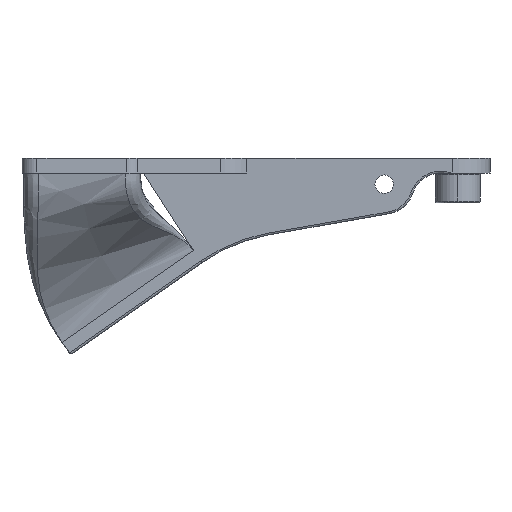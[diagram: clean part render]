
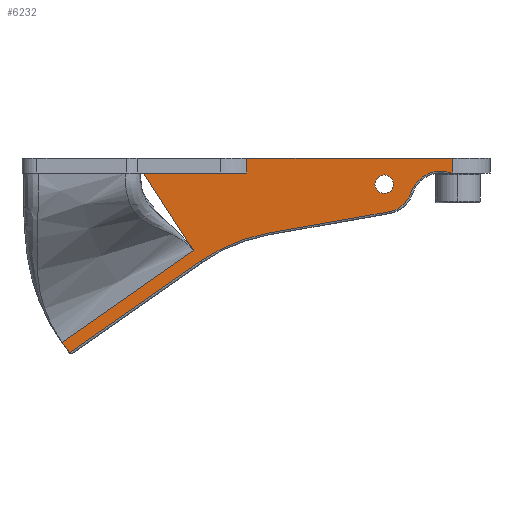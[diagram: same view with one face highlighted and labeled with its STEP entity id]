
A CAD part, left-side view. The second image highlights one B-rep face of the part: STEP entity #6232.
In plain terms, the highlighted planar face has unit normal (-1, 0, 0).
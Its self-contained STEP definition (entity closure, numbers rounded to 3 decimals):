
#105 = ORIENTED_EDGE ( 'NONE', *, *, #9583, .T. ) ;
#109 = CARTESIAN_POINT ( 'NONE',  ( 258.958, 326.154, -19.73 ) ) ;
#149 = CARTESIAN_POINT ( 'NONE',  ( 258.958, 333.186, -24.654 ) ) ;
#184 = CIRCLE ( 'NONE', #7260, 1.25 ) ;
#321 = CARTESIAN_POINT ( 'NONE',  ( 258.958, 290.073, -3.5 ) ) ;
#328 = EDGE_CURVE ( 'NONE', #4052, #5726, #3915, .T. ) ;
#398 = DIRECTION ( 'NONE',  ( 0., -1., 0. ) ) ;
#400 = CARTESIAN_POINT ( 'NONE',  ( 258.958, 336.573, -2. ) ) ;
#491 = VERTEX_POINT ( 'NONE', #856 ) ;
#511 = FACE_OUTER_BOUND ( 'NONE', #6579, .T. ) ;
#514 = DIRECTION ( 'NONE',  ( 0., -1., 0. ) ) ;
#571 = ORIENTED_EDGE ( 'NONE', *, *, #4346, .T. ) ;
#582 = ORIENTED_EDGE ( 'NONE', *, *, #9135, .T. ) ;
#613 = CARTESIAN_POINT ( 'NONE',  ( 258.958, 280.908, -2. ) ) ;
#707 = LINE ( 'NONE', #613, #6381 ) ;
#722 = CARTESIAN_POINT ( 'NONE',  ( 258.958, 320.885, -16.041 ) ) ;
#818 = DIRECTION ( 'NONE',  ( 0., -0.819, 0.574 ) ) ;
#853 = DIRECTION ( 'NONE',  ( 0., -1., 0. ) ) ;
#856 = CARTESIAN_POINT ( 'NONE',  ( 258.958, 333.186, -24.654 ) ) ;
#859 = EDGE_CURVE ( 'NONE', #8377, #8710, #7159, .T. ) ;
#863 = EDGE_CURVE ( 'NONE', #2272, #1952, #8102, .T. ) ;
#1222 = ORIENTED_EDGE ( 'NONE', *, *, #6527, .F. ) ;
#1315 = DIRECTION ( 'NONE',  ( 1., 0., 0. ) ) ;
#1334 = AXIS2_PLACEMENT_3D ( 'NONE', #5661, #5767, #514 ) ;
#1369 = CARTESIAN_POINT ( 'NONE',  ( 258.958, 280.908, -2. ) ) ;
#1521 = DIRECTION ( 'NONE',  ( 0., 0., 1. ) ) ;
#1524 = VERTEX_POINT ( 'NONE', #5095 ) ;
#1565 = CIRCLE ( 'NONE', #6941, 3.75 ) ;
#1726 = LINE ( 'NONE', #7452, #5178 ) ;
#1771 = CARTESIAN_POINT ( 'NONE',  ( 258.958, 280.908, -2. ) ) ;
#1885 = CARTESIAN_POINT ( 'NONE',  ( 258.958, 281.038, -2. ) ) ;
#1952 = VERTEX_POINT ( 'NONE', #6742 ) ;
#2071 = CARTESIAN_POINT ( 'NONE',  ( 258.958, 291.323, -3.5 ) ) ;
#2226 = ORIENTED_EDGE ( 'NONE', *, *, #863, .T. ) ;
#2272 = VERTEX_POINT ( 'NONE', #8564 ) ;
#2276 = CARTESIAN_POINT ( 'NONE',  ( 258.958, 322.641, -17.271 ) ) ;
#2300 = ORIENTED_EDGE ( 'NONE', *, *, #6627, .T. ) ;
#2315 = CARTESIAN_POINT ( 'NONE',  ( 258.958, 315.616, -12.351 ) ) ;
#2493 = B_SPLINE_CURVE_WITH_KNOTS ( 'NONE', 3,
 ( #149, #6716, #5985, #109, #8893, #2276, #722, #8232, #4449, #2315 ),
 .UNSPECIFIED., .F., .F.,
 ( 4, 3, 3, 4 ),
 ( 0., 0.009, 0.015, 0.021 ),
 .UNSPECIFIED. ) ;
#2547 = VECTOR ( 'NONE', #8590, 1000. ) ;
#2559 = DIRECTION ( 'NONE',  ( -1., 0., 0. ) ) ;
#2565 = CARTESIAN_POINT ( 'NONE',  ( 258.958, 280.277, -5.581 ) ) ;
#2789 = ORIENTED_EDGE ( 'NONE', *, *, #7033, .F. ) ;
#2810 = VECTOR ( 'NONE', #853, 1000. ) ;
#2949 = CARTESIAN_POINT ( 'NONE',  ( 258.958, 315.616, -12.351 ) ) ;
#2995 = LINE ( 'NONE', #400, #2547 ) ;
#3275 = DIRECTION ( 'NONE',  ( 0., -1., 0. ) ) ;
#3505 = CARTESIAN_POINT ( 'NONE',  ( 258.958, 286.511, -4.672 ) ) ;
#3525 = EDGE_CURVE ( 'NONE', #7998, #5709, #4814, .T. ) ;
#3600 = EDGE_CURVE ( 'NONE', #1952, #4052, #1565, .T. ) ;
#3606 = ORIENTED_EDGE ( 'NONE', *, *, #3965, .T. ) ;
#3724 = FACE_BOUND ( 'NONE', #8024, .T. ) ;
#3781 = VERTEX_POINT ( 'NONE', #5573 ) ;
#3833 = LINE ( 'NONE', #2949, #9328 ) ;
#3899 = EDGE_CURVE ( 'NONE', #8710, #3781, #4447, .T. ) ;
#3915 = CIRCLE ( 'NONE', #5588, 4.25 ) ;
#3965 = EDGE_CURVE ( 'NONE', #5709, #7998, #184, .T. ) ;
#4052 = VERTEX_POINT ( 'NONE', #3505 ) ;
#4093 = DIRECTION ( 'NONE',  ( 0., -1., 0. ) ) ;
#4116 = DIRECTION ( 'NONE',  ( 0., 0., 1. ) ) ;
#4143 = AXIS2_PLACEMENT_3D ( 'NONE', #7015, #4802, #5393 ) ;
#4174 = ORIENTED_EDGE ( 'NONE', *, *, #6799, .F. ) ;
#4346 = EDGE_CURVE ( 'NONE', #8009, #3781, #7586, .T. ) ;
#4447 = LINE ( 'NONE', #9385, #7021 ) ;
#4449 = CARTESIAN_POINT ( 'NONE',  ( 258.958, 317.372, -13.581 ) ) ;
#4501 = B_SPLINE_CURVE_WITH_KNOTS ( 'NONE', 3,
 ( #8398, #6778, #9119, #8296 ),
 .UNSPECIFIED., .F., .F.,
 ( 4, 4 ),
 ( 0.004, 0.006 ),
 .UNSPECIFIED. ) ;
#4613 = PLANE ( 'NONE',  #8735 ) ;
#4620 = VERTEX_POINT ( 'NONE', #5489 ) ;
#4802 = DIRECTION ( 'NONE',  ( 1., 0., 0. ) ) ;
#4814 = CIRCLE ( 'NONE', #4143, 1.25 ) ;
#4939 = ORIENTED_EDGE ( 'NONE', *, *, #9512, .T. ) ;
#5095 = CARTESIAN_POINT ( 'NONE',  ( 258.958, 308.474, -2. ) ) ;
#5178 = VECTOR ( 'NONE', #818, 1000. ) ;
#5281 = VECTOR ( 'NONE', #9259, 1000. ) ;
#5341 = CARTESIAN_POINT ( 'NONE',  ( 258.958, 308.473, 0. ) ) ;
#5393 = DIRECTION ( 'NONE',  ( 0., 1., 0. ) ) ;
#5489 = CARTESIAN_POINT ( 'NONE',  ( 258.958, 315.616, -12.351 ) ) ;
#5534 = VECTOR ( 'NONE', #4116, 1000. ) ;
#5573 = CARTESIAN_POINT ( 'NONE',  ( 258.958, 280.908, 0. ) ) ;
#5588 = AXIS2_PLACEMENT_3D ( 'NONE', #6971, #7828, #3275 ) ;
#5661 = CARTESIAN_POINT ( 'NONE',  ( 258.958, 301.649, -32.298 ) ) ;
#5709 = VERTEX_POINT ( 'NONE', #7042 ) ;
#5726 = VERTEX_POINT ( 'NONE', #1885 ) ;
#5767 = DIRECTION ( 'NONE',  ( 1., 0., 0. ) ) ;
#5863 = CARTESIAN_POINT ( 'NONE',  ( 258.958, 290.073, -3.5 ) ) ;
#5957 = CARTESIAN_POINT ( 'NONE',  ( 258.958, 280.908, -2. ) ) ;
#5985 = CARTESIAN_POINT ( 'NONE',  ( 258.958, 328.498, -21.372 ) ) ;
#6180 = DIRECTION ( 'NONE',  ( 0., -1., 0. ) ) ;
#6232 = ADVANCED_FACE ( 'NONE', ( #511, #3724 ), #4613, .T. ) ;
#6354 = CARTESIAN_POINT ( 'NONE',  ( 258.958, 308.473, -2. ) ) ;
#6381 = VECTOR ( 'NONE', #7305, 1000. ) ;
#6386 = CIRCLE ( 'NONE', #1334, 22.6 ) ;
#6489 = ORIENTED_EDGE ( 'NONE', *, *, #328, .T. ) ;
#6527 = EDGE_CURVE ( 'NONE', #491, #4620, #2493, .T. ) ;
#6579 = EDGE_LOOP ( 'NONE', ( #1222, #2300, #105, #9382, #2226, #7766, #6489, #4939, #571, #8157, #8229, #582, #2789, #4174 ) ) ;
#6627 = EDGE_CURVE ( 'NONE', #491, #8008, #4501, .T. ) ;
#6716 = CARTESIAN_POINT ( 'NONE',  ( 258.958, 330.842, -23.013 ) ) ;
#6722 = VERTEX_POINT ( 'NONE', #9350 ) ;
#6742 = CARTESIAN_POINT ( 'NONE',  ( 258.958, 289.422, -7.193 ) ) ;
#6778 = CARTESIAN_POINT ( 'NONE',  ( 258.958, 332.852, -25.132 ) ) ;
#6799 = EDGE_CURVE ( 'NONE', #4620, #6944, #3833, .T. ) ;
#6941 = AXIS2_PLACEMENT_3D ( 'NONE', #321, #8522, #398 ) ;
#6944 = VERTEX_POINT ( 'NONE', #8159 ) ;
#6971 = CARTESIAN_POINT ( 'NONE',  ( 258.958, 282.474, -6. ) ) ;
#7015 = CARTESIAN_POINT ( 'NONE',  ( 258.958, 290.073, -3.5 ) ) ;
#7021 = VECTOR ( 'NONE', #4093, 1000. ) ;
#7033 = EDGE_CURVE ( 'NONE', #6944, #1524, #7218, .T. ) ;
#7042 = CARTESIAN_POINT ( 'NONE',  ( 258.958, 288.823, -3.5 ) ) ;
#7159 = LINE ( 'NONE', #6354, #5534 ) ;
#7218 = LINE ( 'NONE', #9035, #2810 ) ;
#7260 = AXIS2_PLACEMENT_3D ( 'NONE', #5863, #1315, #9559 ) ;
#7303 = CARTESIAN_POINT ( 'NONE',  ( 258.958, 308.473, -2. ) ) ;
#7305 = DIRECTION ( 'NONE',  ( 0., -1., 0. ) ) ;
#7452 = CARTESIAN_POINT ( 'NONE',  ( 258.958, 286.459, 5.928 ) ) ;
#7586 = LINE ( 'NONE', #5957, #8547 ) ;
#7766 = ORIENTED_EDGE ( 'NONE', *, *, #3600, .T. ) ;
#7828 = DIRECTION ( 'NONE',  ( 1., 0., 0. ) ) ;
#7998 = VERTEX_POINT ( 'NONE', #2071 ) ;
#8008 = VERTEX_POINT ( 'NONE', #9606 ) ;
#8009 = VERTEX_POINT ( 'NONE', #1369 ) ;
#8024 = EDGE_LOOP ( 'NONE', ( #8127, #3606 ) ) ;
#8102 = LINE ( 'NONE', #2565, #5281 ) ;
#8127 = ORIENTED_EDGE ( 'NONE', *, *, #3525, .T. ) ;
#8137 = EDGE_CURVE ( 'NONE', #6722, #2272, #6386, .T. ) ;
#8157 = ORIENTED_EDGE ( 'NONE', *, *, #3899, .F. ) ;
#8159 = CARTESIAN_POINT ( 'NONE',  ( 258.958, 322.302, -2. ) ) ;
#8229 = ORIENTED_EDGE ( 'NONE', *, *, #859, .F. ) ;
#8232 = CARTESIAN_POINT ( 'NONE',  ( 258.958, 319.128, -14.811 ) ) ;
#8296 = CARTESIAN_POINT ( 'NONE',  ( 258.958, 332.183, -26.088 ) ) ;
#8377 = VERTEX_POINT ( 'NONE', #7303 ) ;
#8398 = CARTESIAN_POINT ( 'NONE',  ( 258.958, 333.186, -24.654 ) ) ;
#8522 = DIRECTION ( 'NONE',  ( -1., 0., 0. ) ) ;
#8547 = VECTOR ( 'NONE', #1521, 1000. ) ;
#8564 = CARTESIAN_POINT ( 'NONE',  ( 258.958, 305.573, -10.041 ) ) ;
#8590 = DIRECTION ( 'NONE',  ( 0., 1., 0. ) ) ;
#8710 = VERTEX_POINT ( 'NONE', #5341 ) ;
#8735 = AXIS2_PLACEMENT_3D ( 'NONE', #1771, #2559, #6180 ) ;
#8893 = CARTESIAN_POINT ( 'NONE',  ( 258.958, 324.397, -18.5 ) ) ;
#9035 = CARTESIAN_POINT ( 'NONE',  ( 258.958, 322.302, -2. ) ) ;
#9119 = CARTESIAN_POINT ( 'NONE',  ( 258.958, 332.517, -25.61 ) ) ;
#9135 = EDGE_CURVE ( 'NONE', #8377, #1524, #2995, .T. ) ;
#9259 = DIRECTION ( 'NONE',  ( 0., -0.985, 0.174 ) ) ;
#9328 = VECTOR ( 'NONE', #9596, 1000. ) ;
#9350 = CARTESIAN_POINT ( 'NONE',  ( 258.958, 314.612, -13.785 ) ) ;
#9382 = ORIENTED_EDGE ( 'NONE', *, *, #8137, .T. ) ;
#9385 = CARTESIAN_POINT ( 'NONE',  ( 258.958, 280.908, 0. ) ) ;
#9512 = EDGE_CURVE ( 'NONE', #5726, #8009, #707, .T. ) ;
#9559 = DIRECTION ( 'NONE',  ( 0., 1., 0. ) ) ;
#9583 = EDGE_CURVE ( 'NONE', #8008, #6722, #1726, .T. ) ;
#9596 = DIRECTION ( 'NONE',  ( 0., 0.543, 0.84 ) ) ;
#9606 = CARTESIAN_POINT ( 'NONE',  ( 258.958, 332.183, -26.088 ) ) ;
